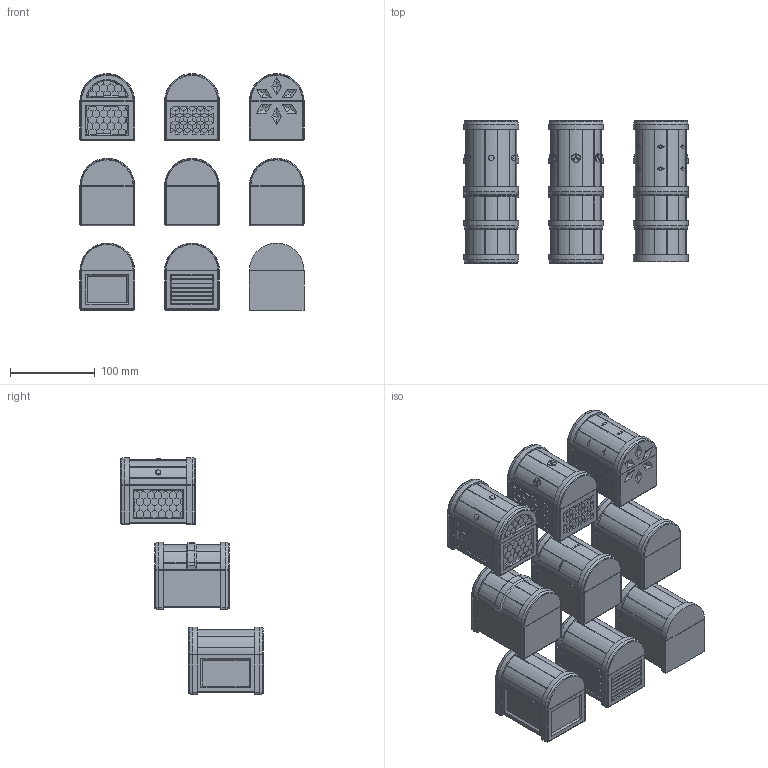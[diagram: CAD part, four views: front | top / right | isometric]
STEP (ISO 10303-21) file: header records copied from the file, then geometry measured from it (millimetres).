
FILE_DESCRIPTION(/* description */ (''),/* implementation_level */ '2;1');
FILE_NAME(/* name */ (''),/* time_stamp */ (''),/* author */ (''),/* organization */ (''),/* preprocessor_version */ 'ST-DEVELOPER v18.1',/* originating_system */ 'Autodesk Translation Framework v10.14.0.1471',/* authorisation */ '');
FILE_SCHEMA (('AUTOMOTIVE_DESIGN { 1 0 10303 214 3 1 1 }'));
Products named in the file (1): Easy Print Treasure Chest Puzzle
Bounding box: 264.5 x 168 x 279.5 mm (x, y, z)
Volume: 1654937.4 mm3; surface area: 897156 mm2
Topology: 90 solids, 90 shells, 7164 faces, 18941 edges, 11995 vertices
Faces by surface type: plane 5884, cylinder 814, cone 374, bspline 76, torus 16
Full cylindrical faces by diameter (mm): 2 x27
Entity records: 219964 total; most frequent: CARTESIAN_POINT 43402, ORIENTED_EDGE 37760, DIRECTION 34775, EDGE_CURVE 18880, LINE 15745, VECTOR 15745, VERTEX_POINT 11995, AXIS2_PLACEMENT_3D 9515
